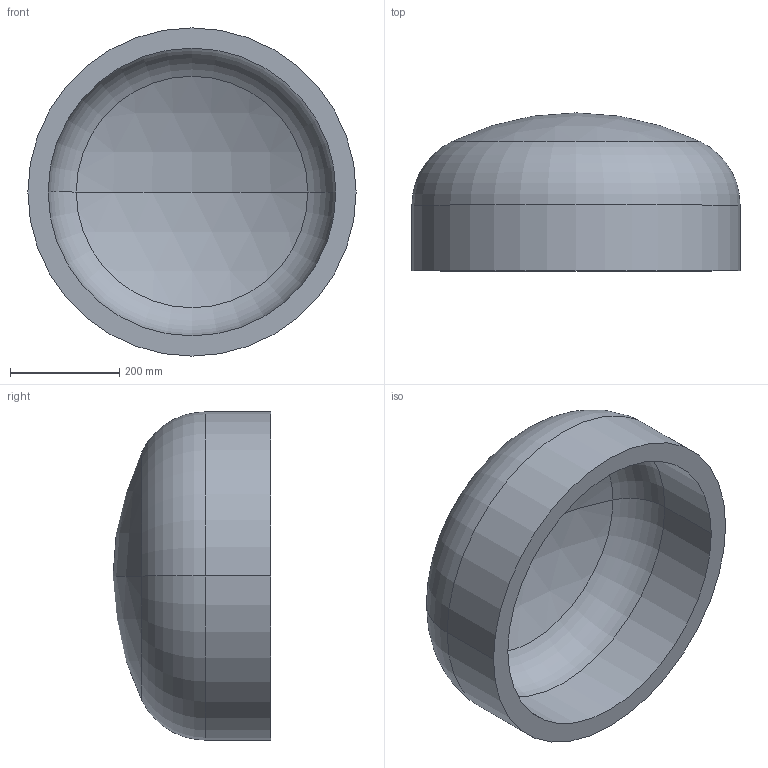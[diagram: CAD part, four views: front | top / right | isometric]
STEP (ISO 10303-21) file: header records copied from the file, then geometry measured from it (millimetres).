
FILE_DESCRIPTION (( 'STEP AP203' ), '1' );
FILE_NAME ('DIN 28013 Korbbogenform_-_Boden DIN 28013 - 600 x 120 - I - s=37.step', '2016-07-01T08:00:06', ( '' ), ( '' ), 'SwSTEP 2.0', 'SolidWorks 2013', '' );
FILE_SCHEMA (( 'CONFIG_CONTROL_DESIGN' ));
Length unit declared in the file: millimetre
Products named in the file (1): DIN 28013 Korbbogenform_-_Boden DIN 28013 - 600 x 120 - I - s=37
Bounding box: 600 x 288.71 x 600 mm (x, y, z)
Volume: 21236222.1 mm3; surface area: 1216213.4 mm2
Topology: 1 solids, 1 shells, 13 faces, 24 edges, 14 vertices
Faces by surface type: torus 4, cylinder 4, sphere 4, plane 1
Entity records: 407 total; most frequent: DIRECTION 72, CARTESIAN_POINT 52, ORIENTED_EDGE 48, AXIS2_PLACEMENT_3D 34, EDGE_CURVE 24, CIRCLE 20, EDGE_LOOP 14, VERTEX_POINT 14
